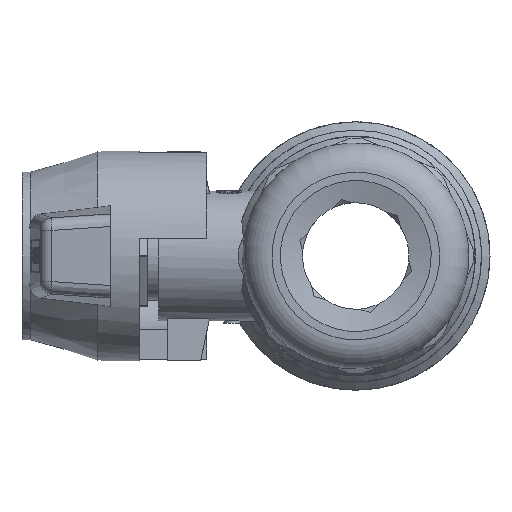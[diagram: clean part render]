
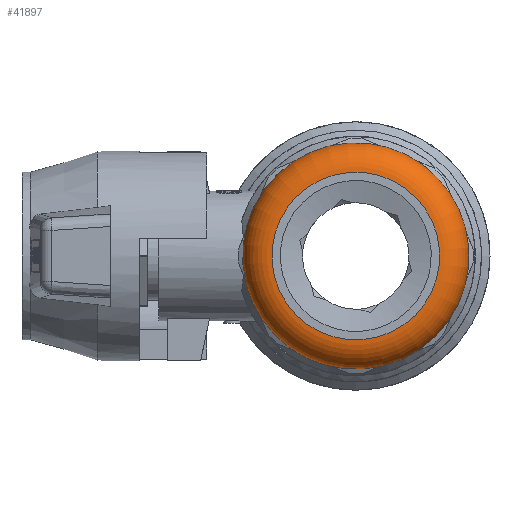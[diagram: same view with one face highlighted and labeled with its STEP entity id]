
A CAD part, left-side view. The second image highlights one B-rep face of the part: STEP entity #41897.
In plain terms, the highlighted toroidal (fillet/blend) face has major radius 10 mm and minor radius 3.5 mm.
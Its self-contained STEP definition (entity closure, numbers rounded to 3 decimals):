
#41599=CARTESIAN_POINT('',(-52.,-2.524,-9.665));
#41600=VERTEX_POINT('',#41599);
#41601=CARTESIAN_POINT('',(-52.,-0.071,0.029));
#41602=DIRECTION('',(1.0,0.0,0.0));
#41603=DIRECTION('',(0.0,-0.245,-0.969));
#41604=AXIS2_PLACEMENT_3D('',#41601,#41602,#41603);
#41605=CIRCLE('',#41604,10.);
#41606=EDGE_CURVE('',#41600,#41600,#41605,.T.);
#41874=CARTESIAN_POINT('',(-46.75,-3.268,-12.603));
#41875=VERTEX_POINT('',#41874);
#41876=CARTESIAN_POINT('',(-46.75,-0.071,0.029));
#41877=DIRECTION('',(1.0,0.0,0.0));
#41878=DIRECTION('',(0.0,-0.245,-0.969));
#41879=AXIS2_PLACEMENT_3D('',#41876,#41877,#41878);
#41880=CIRCLE('',#41879,13.031);
#41881=EDGE_CURVE('',#41875,#41875,#41880,.T.);
#41886=CARTESIAN_POINT('',(-48.5,-0.071,0.029));
#41887=DIRECTION('',(1.0,0.0,0.0));
#41888=DIRECTION('',(0.0,0.0,-1.0));
#41889=AXIS2_PLACEMENT_3D('',#41886,#41887,#41888);
#41890=TOROIDAL_SURFACE('',#41889,10.,3.5);
#41891=ORIENTED_EDGE('',*,*,#41606,.T.);
#41892=EDGE_LOOP('',(#41891));
#41893=FACE_OUTER_BOUND('',#41892,.T.);
#41894=ORIENTED_EDGE('',*,*,#41881,.F.);
#41895=EDGE_LOOP('',(#41894));
#41896=FACE_BOUND('',#41895,.T.);
#41897=ADVANCED_FACE('',(#41893,#41896),#41890,.T.);
